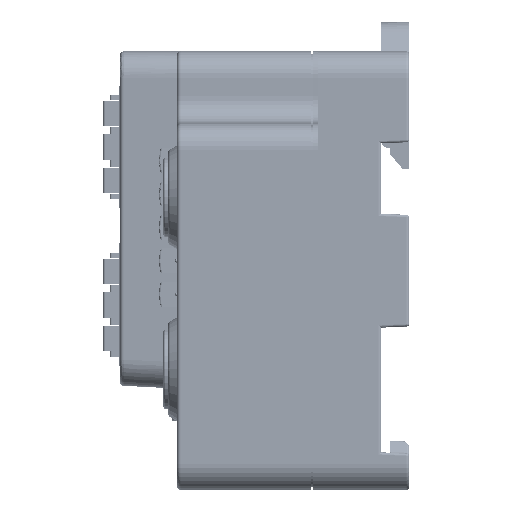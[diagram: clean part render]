
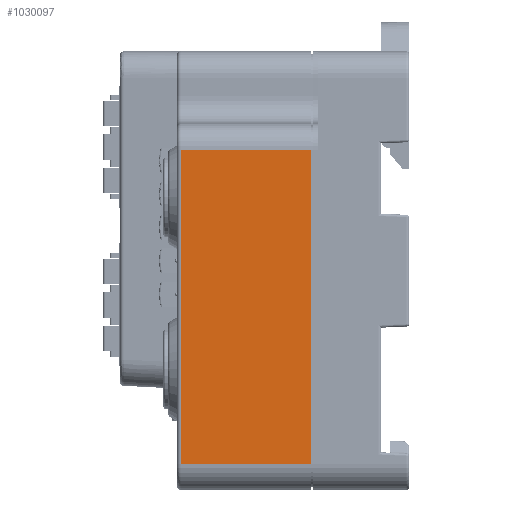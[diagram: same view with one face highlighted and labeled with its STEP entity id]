
A CAD part, left-side view. The second image highlights one B-rep face of the part: STEP entity #1030097.
In plain terms, the highlighted planar face has unit normal (-1, 0, 0).
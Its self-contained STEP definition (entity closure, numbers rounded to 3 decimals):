
#278159=DIRECTION('',(0.,0.,1.));
#278160=VECTOR('',#278159,35.752);
#278161=CARTESIAN_POINT('',(-85.5,-7.7,-22.));
#278162=LINE('',#278161,#278160);
#278163=DIRECTION('',(0.,-1.,0.));
#278164=VECTOR('',#278163,14.8);
#278165=CARTESIAN_POINT('',(-85.5,7.1,-22.));
#278166=LINE('',#278165,#278164);
#278167=DIRECTION('',(0.,0.,1.));
#278168=VECTOR('',#278167,35.752);
#278169=CARTESIAN_POINT('',(-85.5,7.1,-22.));
#278170=LINE('',#278169,#278168);
#278171=DIRECTION('',(0.,1.,0.));
#278172=VECTOR('',#278171,14.8);
#278173=CARTESIAN_POINT('',(-85.5,-7.7,13.752));
#278174=LINE('',#278173,#278172);
#385124=CARTESIAN_POINT('',(-85.5,7.1,-22.));
#385125=CARTESIAN_POINT('',(-85.5,7.1,13.752));
#385126=VERTEX_POINT('',#385124);
#385127=VERTEX_POINT('',#385125);
#385176=CARTESIAN_POINT('',(-85.5,-7.7,-22.));
#385177=CARTESIAN_POINT('',(-85.5,-7.7,13.752));
#385178=VERTEX_POINT('',#385176);
#385179=VERTEX_POINT('',#385177);
#1030085=CARTESIAN_POINT('',(-85.5,14.6,-25.));
#1030086=DIRECTION('',(-1.,0.,0.));
#1030087=DIRECTION('',(0.,0.,1.));
#1030088=AXIS2_PLACEMENT_3D('',#1030085,#1030086,#1030087);
#1030089=PLANE('',#1030088);
#1030090=ORIENTED_EDGE('',*,*,#1016669,.F.);
#1030092=ORIENTED_EDGE('',*,*,#1030091,.F.);
#1030093=ORIENTED_EDGE('',*,*,#1029945,.T.);
#1030094=ORIENTED_EDGE('',*,*,#1030078,.F.);
#1030095=EDGE_LOOP('',(#1030090,#1030092,#1030093,#1030094));
#1030096=FACE_OUTER_BOUND('',#1030095,.F.);
#1016669=EDGE_CURVE('',#385178,#385179,#278162,.T.);
#1029945=EDGE_CURVE('',#385126,#385127,#278170,.T.);
#1030078=EDGE_CURVE('',#385179,#385127,#278174,.T.);
#1030091=EDGE_CURVE('',#385126,#385178,#278166,.T.);
#1030097=ADVANCED_FACE('',(#1030096),#1030089,.T.);
